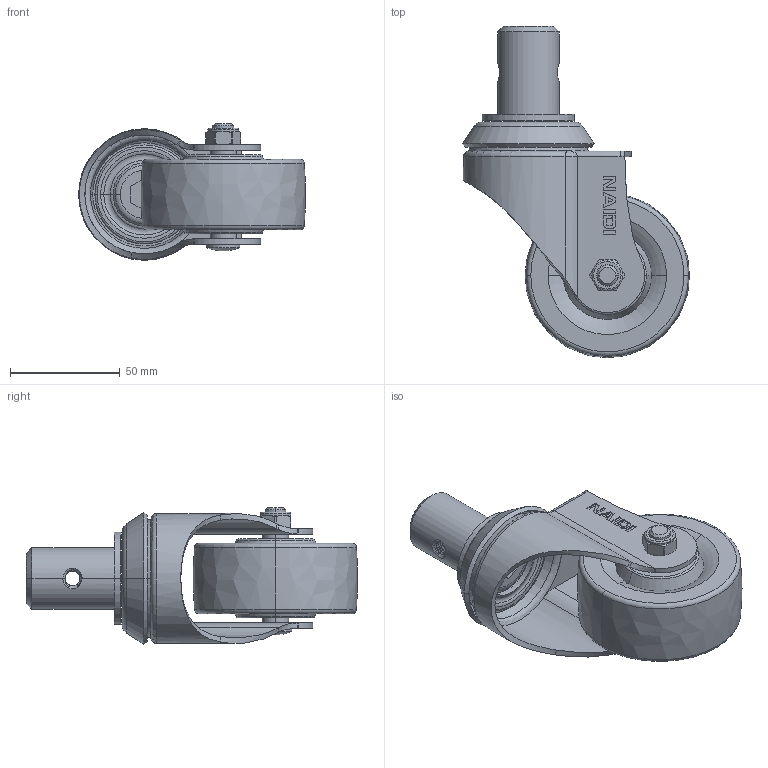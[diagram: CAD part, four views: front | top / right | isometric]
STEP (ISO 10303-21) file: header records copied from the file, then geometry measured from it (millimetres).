
FILE_DESCRIPTION((''),'2;1');
FILE_NAME('B55153_ASM','2024-08-13T',('Lenovo'),(''),'PRO/ENGINEER BY PARAMETRIC TECHNOLOGY CORPORATION, 2010280','PRO/ENGINEER BY PARAMETRIC TECHNOLOGY CORPORATION, 2010280','');
FILE_SCHEMA(('CONFIG_CONTROL_DESIGN'));
Length unit declared in the file: millimetre
Products named in the file (8): B5513-311; 570-03A; 5710-055; B553-986; 500-54; 570-33; 570-34; B55153_ASM
Assembly tree (7 placements, depth 2):
  B55153_ASM
    B5513-311
    570-03A
    5710-055
    B553-986
    500-54
    570-33
    570-34
Bounding box: 103.44 x 150.94 x 62.25 mm (x, y, z)
Volume: 204158 mm3; surface area: 62605.9 mm2
Topology: 7 solids, 7 shells, 323 faces, 788 edges, 488 vertices
Faces by surface type: plane 94, cylinder 93, bspline 49, torus 43, cone 36, extrusion 6, sphere 2
Entity records: 16376 total; most frequent: CARTESIAN_POINT 8989, ORIENTED_EDGE 1572, DIRECTION 1390, EDGE_CURVE 786, AXIS2_PLACEMENT_3D 527, VERTEX_POINT 488, EDGE_LOOP 350, VECTOR 336
